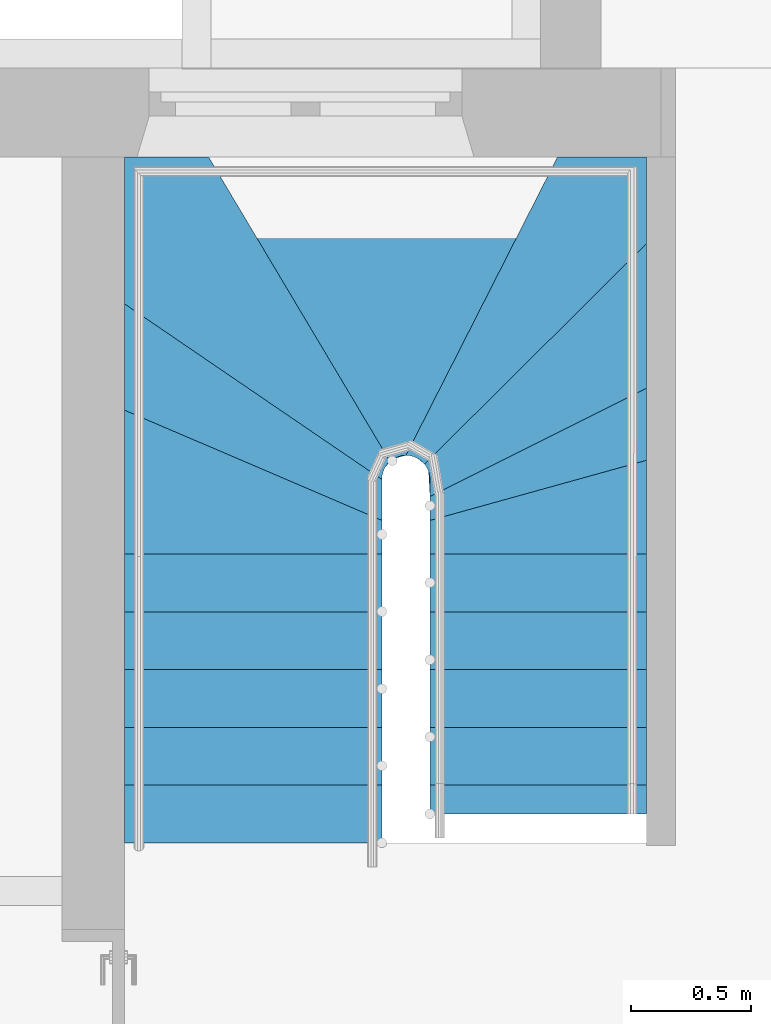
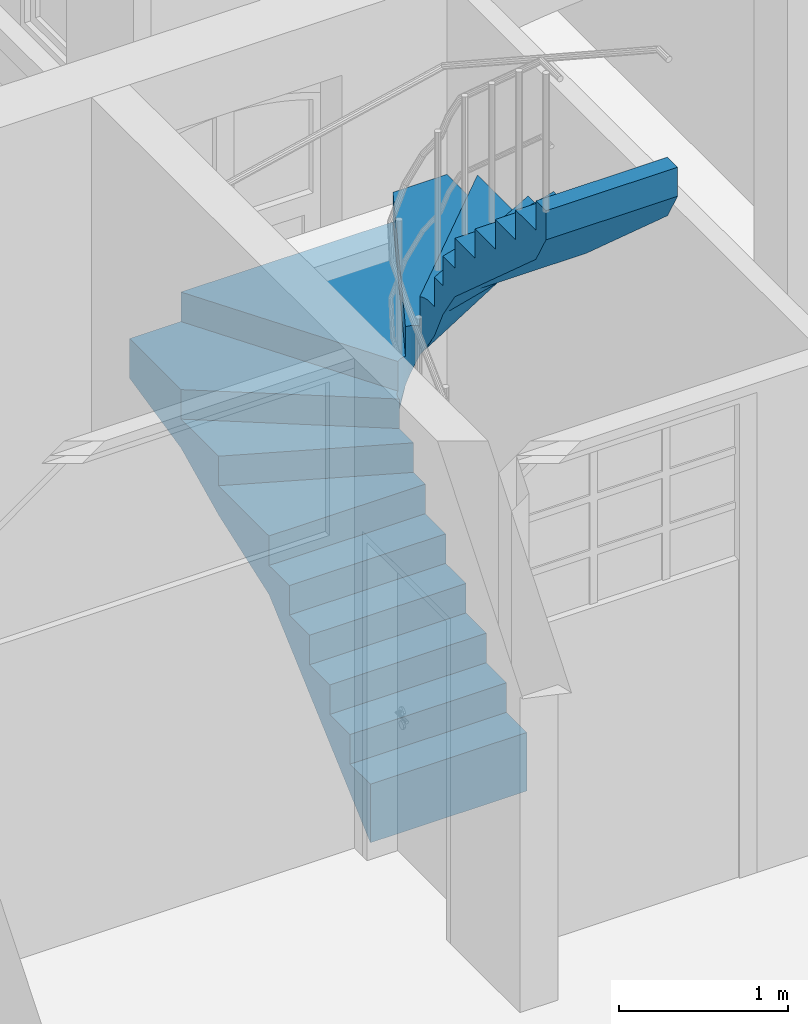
"""IFC4 building model written with IfcOpenShell, lengths in metres."""

from ifc_helpers import new_model, entity, si_unit, converted_unit, derived_unit, frame, origin, place, context, subcontext, project, spatial, faceted_brep, material, element, save


model = new_model("IFC4")

# Units and contexts
model_context = context("Model", 3, precision=1e-05, world=origin())
body_context = subcontext(model_context, "Body", "Model", "MODEL_VIEW")
ifc_project = project(units=[si_unit("LENGTHUNIT", "METRE"), si_unit("AREAUNIT", "SQUARE_METRE"), si_unit("VOLUMEUNIT", "CUBIC_METRE"), si_unit("MASSUNIT", "GRAM", prefix="KILO"), converted_unit("PLANEANGLEUNIT", "DEGREE", entity("IfcPlaneAngleMeasure", 0.0174532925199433), si_unit("PLANEANGLEUNIT", "RADIAN"), dimensions=[0, 0, 0, 0, 0, 0, 0]), derived_unit("THERMALTRANSMITTANCEUNIT", [(si_unit("POWERUNIT", "WATT"), 1), (si_unit("THERMODYNAMICTEMPERATUREUNIT", "KELVIN"), -1), (si_unit("LENGTHUNIT", "METRE"), -2)]), derived_unit("VOLUMETRICFLOWRATEUNIT", [(si_unit("LENGTHUNIT", "METRE"), 3), (converted_unit("TIMEUNIT", "hour", entity("IfcTimeMeasure", 3600.0), si_unit("TIMEUNIT", "SECOND"), dimensions=[0, 0, 1, 0, 0, 0, 0]), -1), (si_unit("LENGTHUNIT", "METRE"), -1)])], contexts=[model_context])

# Building, storeys
building_placement = place(None, origin())
building = spatial("IfcBuilding", under=ifc_project, at=building_placement, Name="Bestandsgebäude A - Sporthalle / Wohnhaus (TB 100-499)   ANPASSEN !!!", CompositionType="ELEMENT")
storey_1_placement = place(building_placement, frame((0.0, 0.0, 3.87)))
storey_1 = spatial("IfcBuildingStorey", under=building, at=storey_1_placement, Name="Geb. A 1. Obergeschoss (TB 250-299)", CompositionType="ELEMENT", Elevation=3.87)
storey_2_placement = place(storey_1_placement, frame((0.0, 0.0, 3.87)))
storey_2 = spatial("IfcBuildingStorey", under=storey_1, at=storey_2_placement, Name="Architektur (TB 250-259)", CompositionType="PARTIAL")

# Stair
ifc_material = material(Name="Free-Form Stair")
stair_placement = place(storey_2_placement, frame((-5.22, 6.03, -4.18)))
element("IfcStair", 1, at=stair_placement, inside=storey_2, material=ifc_material, PredefinedType="NOTDEFINED", context=body_context, shape_type="Brep", body=[
    faceted_brep([(2.17000000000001, 0.120000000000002, 4.0), (2.17000000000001, 0.240000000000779, 4.0), (1.27, 0.239999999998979, 4.0), (1.27, 0.120000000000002, 4.0), (2.17000000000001, 0.240000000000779, 4.05), (2.17000000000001, 0.120000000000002, 4.05), (1.27, 0.120000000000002, 4.05), (1.27, 0.239999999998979, 4.05)], [[[0, 1, 2, 3]], [[4, 5, 6, 7]], [[1, 0, 5, 4]], [[2, 1, 4, 7]], [[3, 2, 7, 6]], [[0, 3, 6, 5]]], orient=[[False], [False], [False], [False], [False], [False]]),
    faceted_brep([(2.17000000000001, 0.240000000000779, 3.78666666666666), (2.17000000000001, 0.480000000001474, 3.78666666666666), (1.27, 0.479999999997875, 3.78666666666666), (1.27, 0.239999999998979, 3.78666666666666), (2.17000000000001, 0.480000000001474, 3.83666666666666), (2.17000000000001, 0.240000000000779, 3.83666666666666), (1.27, 0.239999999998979, 3.83666666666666), (1.27, 0.479999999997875, 3.83666666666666)], [[[0, 1, 2, 3]], [[4, 5, 6, 7]], [[1, 0, 5, 4]], [[2, 1, 4, 7]], [[3, 2, 7, 6]], [[0, 3, 6, 5]]], orient=[[False], [False], [False], [False], [False], [False]]),
    faceted_brep([(2.17000000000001, 0.480000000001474, 3.57333333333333), (2.17000000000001, 0.720000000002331, 3.57333333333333), (1.27, 0.719999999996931, 3.57333333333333), (1.27, 0.479999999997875, 3.57333333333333), (2.17000000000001, 0.720000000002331, 3.62333333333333), (2.17000000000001, 0.480000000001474, 3.62333333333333), (1.27, 0.479999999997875, 3.62333333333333), (1.27, 0.719999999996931, 3.62333333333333)], [[[0, 1, 2, 3]], [[4, 5, 6, 7]], [[1, 0, 5, 4]], [[2, 1, 4, 7]], [[3, 2, 7, 6]], [[0, 3, 6, 5]]], orient=[[False], [False], [False], [False], [False], [False]]),
    faceted_brep([(2.17000000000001, 0.720000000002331, 3.36), (2.17000000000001, 0.960000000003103, 3.36), (1.27, 0.959999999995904, 3.36), (1.27, 0.719999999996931, 3.36), (2.17000000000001, 0.960000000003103, 3.41), (2.17000000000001, 0.720000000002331, 3.41), (1.27, 0.719999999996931, 3.41), (1.27, 0.959999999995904, 3.41)], [[[0, 1, 2, 3]], [[4, 5, 6, 7]], [[1, 0, 5, 4]], [[2, 1, 4, 7]], [[3, 2, 7, 6]], [[0, 3, 6, 5]]], orient=[[False], [False], [False], [False], [False], [False]]),
    faceted_brep([(2.17000000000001, 0.960000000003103, 3.14666666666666), (2.17, 1.20000000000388, 3.14666666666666), (1.27, 1.19999999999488, 3.14666666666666), (1.27, 0.959999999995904, 3.14666666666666), (2.17, 1.20000000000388, 3.19666666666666), (2.17000000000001, 0.960000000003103, 3.19666666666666), (1.27, 0.959999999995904, 3.19666666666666), (1.27, 1.19999999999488, 3.19666666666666)], [[[0, 1, 2, 3]], [[4, 5, 6, 7]], [[1, 0, 5, 4]], [[2, 1, 4, 7]], [[3, 2, 7, 6]], [[0, 3, 6, 5]]], orient=[[False], [False], [False], [False], [False], [False]]),
    faceted_brep([(2.17, 1.20000000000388, 2.93333333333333), (2.17, 1.59000000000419, 2.93333333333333), (1.27, 1.3399999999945, 2.93333333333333), (1.27, 1.19999999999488, 2.93333333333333), (2.17, 1.59000000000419, 2.98333333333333), (2.17, 1.20000000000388, 2.98333333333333), (1.27, 1.19999999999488, 2.98333333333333), (1.27, 1.3399999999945, 2.98333333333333)], [[[0, 1, 2, 3]], [[4, 5, 6, 7]], [[1, 0, 5, 4]], [[2, 1, 4, 7]], [[3, 2, 7, 6]], [[0, 3, 6, 5]]], orient=[[False], [False], [False], [False], [False], [False]]),
    faceted_brep([(2.17, 1.59000000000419, 2.72), (2.17, 1.89000000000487, 2.72), (1.27, 1.43999999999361, 2.72), (1.27, 1.3399999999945, 2.72), (2.17, 1.89000000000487, 2.77), (2.17, 1.59000000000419, 2.77), (1.27, 1.3399999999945, 2.77), (1.27, 1.43999999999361, 2.77)], [[[0, 1, 2, 3]], [[4, 5, 6, 7]], [[1, 0, 5, 4]], [[2, 1, 4, 7]], [[3, 2, 7, 6]], [[0, 3, 6, 5]]], orient=[[False], [False], [False], [False], [False], [False]]),
    faceted_brep([(2.17, 1.89000000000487, 2.50666666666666), (2.17, 2.49063680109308, 2.50666666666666), (1.24721915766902, 1.57392885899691, 2.50666666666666), (1.25660254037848, 1.56052799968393, 2.50666666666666), (1.26396926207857, 1.54473001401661, 2.50666666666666), (1.26848077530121, 1.52789281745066, 2.50666666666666), (1.27, 1.51052799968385, 2.50666666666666), (1.27, 1.43999999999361, 2.50666666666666), (2.17, 2.49063680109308, 2.55666666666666), (2.17, 1.89000000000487, 2.55666666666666), (1.27, 1.43999999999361, 2.55666666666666), (1.27, 1.51052799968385, 2.55666666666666), (1.26848077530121, 1.52789281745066, 2.55666666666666), (1.26396926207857, 1.54473001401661, 2.55666666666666), (1.25660254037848, 1.56052799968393, 2.55666666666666), (1.24721915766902, 1.57392885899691, 2.55666666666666)], [[[0, 1, 2, 3, 4, 5, 6, 7]], [[8, 9, 10, 11, 12, 13, 14, 15]], [[1, 0, 9, 8]], [[2, 1, 8, 15]], [[3, 2, 15, 14]], [[4, 3, 14, 13]], [[5, 4, 13, 12]], [[6, 5, 12, 11]], [[7, 6, 11, 10]], [[0, 7, 10, 9]]], orient=[[False], [False], [False], [False], [False], [False], [False], [False], [False], [False]]),
    faceted_brep([(2.17, 2.85, 2.29333333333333), (1.79999999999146, 2.85, 2.29333333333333), (1.17, 1.61052799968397, 2.29333333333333), (1.18736481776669, 1.60900877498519, 2.29333333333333), (1.2042020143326, 1.60449726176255, 2.29333333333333), (1.21999999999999, 1.59713054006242, 2.29333333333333), (1.23427876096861, 1.58713244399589, 2.29333333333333), (1.24660444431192, 1.57480676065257, 2.29333333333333), (1.24721915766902, 1.57392885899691, 2.29333333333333), (2.17, 2.49063680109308, 2.29333333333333), (1.79999999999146, 2.85, 2.34333333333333), (2.17, 2.85, 2.34333333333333), (2.17, 2.49063680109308, 2.34333333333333), (1.24721915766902, 1.57392885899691, 2.34333333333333), (1.24660444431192, 1.57480676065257, 2.34333333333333), (1.23427876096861, 1.58713244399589, 2.34333333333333), (1.21999999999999, 1.59713054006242, 2.34333333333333), (1.2042020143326, 1.60449726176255, 2.34333333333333), (1.18736481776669, 1.60900877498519, 2.34333333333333), (1.17, 1.61052799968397, 2.34333333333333)], [[[0, 1, 2, 3, 4, 5, 6, 7, 8, 9]], [[10, 11, 12, 13, 14, 15, 16, 17, 18, 19]], [[1, 0, 11, 10]], [[2, 1, 10, 19]], [[3, 2, 19, 18]], [[4, 3, 18, 17]], [[5, 4, 17, 16]], [[6, 5, 16, 15]], [[7, 6, 15, 14]], [[8, 7, 14, 13]], [[9, 8, 13, 12]], [[0, 9, 12, 11]]], orient=[[False], [False], [False], [False], [False], [False], [False], [False], [False], [False], [False], [False]]),
    faceted_brep([(1.79999999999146, 2.85, 2.08), (0.349999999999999, 2.85, 2.08), (1.10399808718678, 1.5854092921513, 2.08), (1.10572123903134, 1.58713244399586, 2.08), (1.11999999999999, 1.5971305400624, 2.08), (1.13579798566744, 1.60449726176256, 2.08), (1.15263518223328, 1.60900877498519, 2.08), (1.17, 1.61052799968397, 2.08), (0.349999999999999, 2.85, 2.13), (1.79999999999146, 2.85, 2.13), (1.17, 1.61052799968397, 2.13), (1.15263518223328, 1.60900877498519, 2.13), (1.13579798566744, 1.60449726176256, 2.13), (1.11999999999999, 1.5971305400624, 2.13), (1.10572123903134, 1.58713244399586, 2.13), (1.10399808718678, 1.5854092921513, 2.13)], [[[0, 1, 2, 3, 4, 5, 6, 7]], [[8, 9, 10, 11, 12, 13, 14, 15]], [[1, 0, 9, 8]], [[2, 1, 8, 15]], [[3, 2, 15, 14]], [[4, 3, 14, 13]], [[5, 4, 13, 12]], [[6, 5, 12, 11]], [[7, 6, 11, 10]], [[0, 7, 10, 9]]], orient=[[False], [False], [False], [False], [False], [False], [False], [False], [False], [False]]),
    faceted_brep([(0.0, 2.85, 1.86666666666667), (0.0, 2.24052799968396, 1.86666666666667), (1.07, 1.51052799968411, 1.86666666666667), (1.07151922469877, 1.52789281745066, 1.86666666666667), (1.07603073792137, 1.54473001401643, 1.86666666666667), (1.08339745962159, 1.56052799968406, 1.86666666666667), (1.09339555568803, 1.57480676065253, 1.86666666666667), (1.10399808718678, 1.5854092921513, 1.86666666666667), (0.349999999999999, 2.85, 1.86666666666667), (0.0, 2.24052799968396, 1.91666666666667), (0.0, 2.85, 1.91666666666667), (0.349999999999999, 2.85, 1.91666666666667), (1.10399808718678, 1.5854092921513, 1.91666666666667), (1.09339555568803, 1.57480676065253, 1.91666666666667), (1.08339745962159, 1.56052799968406, 1.91666666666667), (1.07603073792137, 1.54473001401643, 1.91666666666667), (1.07151922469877, 1.52789281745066, 1.91666666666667), (1.07, 1.51052799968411, 1.91666666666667)], [[[0, 1, 2, 3, 4, 5, 6, 7, 8]], [[9, 10, 11, 12, 13, 14, 15, 16, 17]], [[1, 0, 10, 9]], [[2, 1, 9, 17]], [[3, 2, 17, 16]], [[4, 3, 16, 15]], [[5, 4, 15, 14]], [[6, 5, 14, 13]], [[7, 6, 13, 12]], [[8, 7, 12, 11]], [[0, 8, 11, 10]]], orient=[[False], [False], [False], [False], [False], [False], [False], [False], [False], [False], [False]]),
    faceted_brep([(0.0, 2.24052799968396, 1.65333333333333), (0.0, 1.7985374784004, 1.65333333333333), (1.07, 1.34020633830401, 1.65333333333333), (1.07, 1.51052799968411, 1.65333333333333), (0.0, 1.7985374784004, 1.70333333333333), (0.0, 2.24052799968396, 1.70333333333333), (1.07, 1.51052799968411, 1.70333333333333), (1.07, 1.34020633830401, 1.70333333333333)], [[[0, 1, 2, 3]], [[4, 5, 6, 7]], [[1, 0, 5, 4]], [[2, 1, 4, 7]], [[3, 2, 7, 6]], [[0, 3, 6, 5]]], orient=[[False], [False], [False], [False], [False], [False]]),
    faceted_brep([(0.0, 1.7985374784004, 1.44), (0.0, 1.19999999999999, 1.44), (1.07, 1.19999999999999, 1.44), (1.07, 1.34020633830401, 1.44), (0.0, 1.19999999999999, 1.49), (0.0, 1.7985374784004, 1.49), (1.07, 1.34020633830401, 1.49), (1.07, 1.19999999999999, 1.49)], [[[0, 1, 2, 3]], [[4, 5, 6, 7]], [[1, 0, 5, 4]], [[2, 1, 4, 7]], [[3, 2, 7, 6]], [[0, 3, 6, 5]]], orient=[[False], [False], [False], [False], [False], [False]]),
    faceted_brep([(0.0, 1.19999999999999, 1.22666666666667), (0.0, 0.959999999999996, 1.22666666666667), (1.07, 0.959999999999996, 1.22666666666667), (1.07, 1.19999999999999, 1.22666666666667), (0.0, 0.959999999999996, 1.27666666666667), (0.0, 1.19999999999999, 1.27666666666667), (1.07, 1.19999999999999, 1.27666666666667), (1.07, 0.959999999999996, 1.27666666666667)], [[[0, 1, 2, 3]], [[4, 5, 6, 7]], [[1, 0, 5, 4]], [[2, 1, 4, 7]], [[3, 2, 7, 6]], [[0, 3, 6, 5]]], orient=[[False], [False], [False], [False], [False], [False]]),
    faceted_brep([(0.0, 0.959999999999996, 1.01333333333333), (0.0, 0.719999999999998, 1.01333333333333), (1.07, 0.719999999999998, 1.01333333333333), (1.07, 0.959999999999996, 1.01333333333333), (0.0, 0.719999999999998, 1.06333333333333), (0.0, 0.959999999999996, 1.06333333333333), (1.07, 0.959999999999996, 1.06333333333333), (1.07, 0.719999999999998, 1.06333333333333)], [[[0, 1, 2, 3]], [[4, 5, 6, 7]], [[1, 0, 5, 4]], [[2, 1, 4, 7]], [[3, 2, 7, 6]], [[0, 3, 6, 5]]], orient=[[False], [False], [False], [False], [False], [False]]),
    faceted_brep([(0.0, 0.719999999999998, 0.8), (0.0, 0.479999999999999, 0.8), (1.07, 0.479999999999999, 0.8), (1.07, 0.719999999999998, 0.8), (0.0, 0.479999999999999, 0.85), (0.0, 0.719999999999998, 0.85), (1.07, 0.719999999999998, 0.85), (1.07, 0.479999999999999, 0.85)], [[[0, 1, 2, 3]], [[4, 5, 6, 7]], [[1, 0, 5, 4]], [[2, 1, 4, 7]], [[3, 2, 7, 6]], [[0, 3, 6, 5]]], orient=[[False], [False], [False], [False], [False], [False]]),
    faceted_brep([(0.0, 0.479999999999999, 0.586666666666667), (0.0, 0.240000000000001, 0.586666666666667), (1.07, 0.240000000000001, 0.586666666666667), (1.07, 0.479999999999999, 0.586666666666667), (0.0, 0.240000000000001, 0.636666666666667), (0.0, 0.479999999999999, 0.636666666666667), (1.07, 0.479999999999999, 0.636666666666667), (1.07, 0.240000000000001, 0.636666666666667)], [[[0, 1, 2, 3]], [[4, 5, 6, 7]], [[1, 0, 5, 4]], [[2, 1, 4, 7]], [[3, 2, 7, 6]], [[0, 3, 6, 5]]], orient=[[False], [False], [False], [False], [False], [False]]),
    faceted_brep([(0.0, 0.240000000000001, 0.373333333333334), (0.0, 0.0, 0.373333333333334), (1.07, 0.0, 0.373333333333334), (1.07, 0.240000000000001, 0.373333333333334), (0.0, 0.0, 0.423333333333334), (0.0, 0.240000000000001, 0.423333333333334), (1.07, 0.240000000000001, 0.423333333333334), (1.07, 0.0, 0.423333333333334)], [[[0, 1, 2, 3]], [[4, 5, 6, 7]], [[1, 0, 5, 4]], [[2, 1, 4, 7]], [[3, 2, 7, 6]], [[0, 3, 6, 5]]], orient=[[False], [False], [False], [False], [False], [False]]),
    faceted_brep([(1.27, 0.239999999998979, 3.62666666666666), (1.27, 0.120000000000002, 3.84), (2.17000000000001, 0.120000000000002, 3.84), (2.17000000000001, 0.240000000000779, 3.62666666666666), (2.17000000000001, 0.240000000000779, 4.0), (2.17000000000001, 0.120000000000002, 4.0), (1.27, 0.120000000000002, 4.0), (1.27, 0.239999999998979, 4.0)], [[[0, 1, 2, 3]], [[4, 5, 6, 7]], [[3, 4, 7, 0]], [[0, 7, 6, 1]], [[1, 6, 5, 2]], [[2, 5, 4, 3]]], orient=[[False], [False], [False], [False], [False], [False]]),
    faceted_brep([(1.27, 0.479999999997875, 3.41333333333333), (1.27, 0.239999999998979, 3.62666666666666), (2.17000000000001, 0.240000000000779, 3.62666666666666), (2.17000000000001, 0.480000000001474, 3.41333333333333), (2.17000000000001, 0.480000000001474, 3.78666666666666), (2.17000000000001, 0.240000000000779, 3.78666666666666), (1.27, 0.239999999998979, 3.78666666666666), (1.27, 0.479999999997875, 3.78666666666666)], [[[0, 1, 2, 3]], [[4, 5, 6, 7]], [[3, 4, 7, 0]], [[0, 7, 6, 1]], [[1, 6, 5, 2]], [[2, 5, 4, 3]]], orient=[[False], [False], [False], [False], [False], [False]]),
    faceted_brep([(1.27, 0.719999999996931, 3.2), (1.27, 0.479999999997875, 3.41333333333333), (2.17000000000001, 0.480000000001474, 3.41333333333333), (2.17000000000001, 0.720000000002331, 3.2), (2.17000000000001, 0.720000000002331, 3.57333333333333), (2.17000000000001, 0.480000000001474, 3.57333333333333), (1.27, 0.479999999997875, 3.57333333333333), (1.27, 0.719999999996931, 3.57333333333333)], [[[0, 1, 2, 3]], [[4, 5, 6, 7]], [[3, 4, 7, 0]], [[0, 7, 6, 1]], [[1, 6, 5, 2]], [[2, 5, 4, 3]]], orient=[[False], [False], [False], [False], [False], [False]]),
    faceted_brep([(1.27, 0.959999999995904, 2.98666666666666), (1.27, 0.719999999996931, 3.2), (2.17000000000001, 0.720000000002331, 3.2), (2.17000000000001, 0.960000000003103, 2.98666666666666), (2.17000000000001, 0.960000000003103, 3.36), (2.17000000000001, 0.720000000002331, 3.36), (1.27, 0.719999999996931, 3.36), (1.27, 0.959999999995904, 3.36)], [[[0, 1, 2, 3]], [[4, 5, 6, 7]], [[3, 4, 7, 0]], [[0, 7, 6, 1]], [[1, 6, 5, 2]], [[2, 5, 4, 3]]], orient=[[False], [False], [False], [False], [False], [False]]),
    faceted_brep([(1.27, 1.19999999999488, 2.77333333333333), (1.27, 0.959999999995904, 2.98666666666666), (2.17000000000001, 0.960000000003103, 2.98666666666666), (2.17, 1.20000000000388, 2.77333333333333), (2.17, 1.20000000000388, 3.14666666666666), (2.17000000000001, 0.960000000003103, 3.14666666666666), (1.27, 0.959999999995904, 3.14666666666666), (1.27, 1.19999999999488, 3.14666666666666)], [[[0, 1, 2, 3]], [[4, 5, 6, 7]], [[3, 4, 7, 0]], [[0, 7, 6, 1]], [[1, 6, 5, 2]], [[2, 5, 4, 3]]], orient=[[False], [False], [False], [False], [False], [False]]),
    faceted_brep([(1.27, 1.3399999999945, 2.56), (1.27, 1.19999999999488, 2.77333333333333), (2.17, 1.59000000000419, 2.56), (2.17, 1.20000000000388, 2.77333333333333), (2.17, 1.59000000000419, 2.93333333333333), (2.17, 1.20000000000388, 2.93333333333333), (1.27, 1.19999999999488, 2.93333333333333), (1.27, 1.3399999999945, 2.93333333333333)], [[[0, 1, 2]], [[1, 3, 2]], [[4, 5, 6, 7]], [[2, 4, 7, 0]], [[0, 7, 6, 1]], [[1, 6, 5, 3]], [[3, 5, 4, 2]]], orient=[[False], [False], [False], [False], [False], [False], [False]]),
    faceted_brep([(1.27, 1.43999999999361, 2.34666666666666), (1.27, 1.3399999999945, 2.56), (2.17, 1.89000000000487, 2.34666666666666), (2.17, 1.59000000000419, 2.56), (2.17, 1.89000000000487, 2.72), (2.17, 1.59000000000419, 2.72), (1.27, 1.3399999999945, 2.72), (1.27, 1.43999999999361, 2.72)], [[[0, 1, 2]], [[1, 3, 2]], [[4, 5, 6, 7]], [[2, 4, 7, 0]], [[0, 7, 6, 1]], [[1, 6, 5, 3]], [[3, 5, 4, 2]]], orient=[[False], [False], [False], [False], [False], [False], [False]]),
    faceted_brep([(1.24721915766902, 1.57392885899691, 2.13333333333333), (1.25660254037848, 1.56052799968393, 2.15869130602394), (2.17, 2.49063680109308, 2.13333333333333), (2.17, 1.89000000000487, 2.34666666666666), (1.26396926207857, 1.54473001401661, 2.18515897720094), (1.27, 1.43999999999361, 2.34666666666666), (1.26848077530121, 1.52789281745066, 2.21137600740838), (1.27, 1.51052799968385, 2.2375567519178), (2.17, 2.49063680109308, 2.50666666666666), (2.17, 1.89000000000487, 2.50666666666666), (1.27, 1.43999999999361, 2.50666666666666), (1.27, 1.51052799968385, 2.50666666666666), (1.26848077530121, 1.52789281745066, 2.50666666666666), (1.26396926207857, 1.54473001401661, 2.50666666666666), (1.25660254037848, 1.56052799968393, 2.50666666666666), (1.24721915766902, 1.57392885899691, 2.50666666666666)], [[[0, 1, 2]], [[1, 3, 2]], [[1, 4, 3]], [[4, 5, 3]], [[4, 6, 5]], [[6, 7, 5]], [[8, 9, 10, 11, 12, 13, 14, 15]], [[2, 8, 15, 0]], [[0, 15, 14, 1]], [[1, 14, 13, 4]], [[4, 13, 12, 6]], [[6, 12, 11, 7]], [[7, 11, 10, 5]], [[5, 10, 9, 3]], [[3, 9, 8, 2]]], orient=[[False], [False], [False], [False], [False], [False], [False], [False], [False], [False], [False], [False], [False], [False], [False]]),
    faceted_brep([(1.17, 1.61052799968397, 1.92), (1.18736481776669, 1.60900877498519, 1.96283760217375), (1.79999999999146, 2.85, 1.92), (2.17, 2.85, 2.0282222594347), (1.2042020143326, 1.60449726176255, 2.00467241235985), (2.17, 2.49063680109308, 2.13333333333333), (1.21999999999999, 1.59713054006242, 2.04616224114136), (1.24721915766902, 1.57392885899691, 2.13333333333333), (1.23427876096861, 1.58713244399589, 2.08794336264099), (1.24660444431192, 1.57480676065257, 2.13066223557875), (1.79999999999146, 2.85, 2.29333333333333), (2.17, 2.85, 2.29333333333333), (2.17, 2.49063680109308, 2.29333333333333), (1.24721915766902, 1.57392885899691, 2.29333333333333), (1.24660444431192, 1.57480676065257, 2.29333333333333), (1.23427876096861, 1.58713244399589, 2.29333333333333), (1.21999999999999, 1.59713054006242, 2.29333333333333), (1.2042020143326, 1.60449726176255, 2.29333333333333), (1.18736481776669, 1.60900877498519, 2.29333333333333), (1.17, 1.61052799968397, 2.29333333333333)], [[[0, 1, 2]], [[1, 3, 2]], [[1, 4, 3]], [[4, 5, 3]], [[4, 6, 5]], [[6, 7, 5]], [[6, 8, 7]], [[8, 9, 7]], [[10, 11, 12, 13, 14, 15, 16, 17, 18, 19]], [[2, 10, 19, 0]], [[0, 19, 18, 1]], [[1, 18, 17, 4]], [[4, 17, 16, 6]], [[6, 16, 15, 8]], [[8, 15, 14, 9]], [[9, 14, 13, 7]], [[7, 13, 12, 5]], [[5, 12, 11, 3]], [[3, 11, 10, 2]]], orient=[[False], [False], [False], [False], [False], [False], [False], [False], [False], [False], [False], [False], [False], [False], [False], [False], [False], [False], [False]]),
    faceted_brep([(1.10399808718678, 1.5854092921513, 1.70666666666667), (1.10572123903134, 1.58713244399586, 1.71400526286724), (0.349999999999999, 2.85, 1.70666666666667), (1.79999999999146, 2.85, 1.92), (1.11999999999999, 1.5971305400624, 1.76576752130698), (1.17, 1.61052799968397, 1.92), (1.13579798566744, 1.60449726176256, 1.81683732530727), (1.15263518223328, 1.60900877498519, 1.86798466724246), (0.349999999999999, 2.85, 2.08), (1.79999999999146, 2.85, 2.08), (1.17, 1.61052799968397, 2.08), (1.15263518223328, 1.60900877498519, 2.08), (1.13579798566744, 1.60449726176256, 2.08), (1.11999999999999, 1.5971305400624, 2.08), (1.10572123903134, 1.58713244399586, 2.08), (1.10399808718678, 1.5854092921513, 2.08)], [[[0, 1, 2]], [[1, 3, 2]], [[1, 4, 3]], [[4, 5, 3]], [[4, 6, 5]], [[6, 7, 5]], [[8, 9, 10, 11, 12, 13, 14, 15]], [[2, 8, 15, 0]], [[0, 15, 14, 1]], [[1, 14, 13, 4]], [[4, 13, 12, 6]], [[6, 12, 11, 7]], [[7, 11, 10, 5]], [[5, 10, 9, 3]], [[3, 9, 8, 2]]], orient=[[False], [False], [False], [False], [False], [False], [False], [False], [False], [False], [False], [False], [False], [False], [False]]),
    faceted_brep([(1.07, 1.51052799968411, 1.49333333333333), (1.07151922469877, 1.52789281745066, 1.53787636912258), (0.0, 2.24052799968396, 1.49333333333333), (0.0, 2.85, 1.62884608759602), (1.07603073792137, 1.54473001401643, 1.58143554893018), (0.349999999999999, 2.85, 1.70666666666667), (1.08339745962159, 1.56052799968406, 1.62469296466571), (1.10399808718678, 1.5854092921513, 1.70666666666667), (1.09339555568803, 1.57480676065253, 1.66831129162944), (0.0, 2.24052799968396, 1.86666666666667), (0.0, 2.85, 1.86666666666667), (0.349999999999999, 2.85, 1.86666666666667), (1.10399808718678, 1.5854092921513, 1.86666666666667), (1.09339555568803, 1.57480676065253, 1.86666666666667), (1.08339745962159, 1.56052799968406, 1.86666666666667), (1.07603073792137, 1.54473001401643, 1.86666666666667), (1.07151922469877, 1.52789281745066, 1.86666666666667), (1.07, 1.51052799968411, 1.86666666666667)], [[[0, 1, 2]], [[1, 3, 2]], [[1, 4, 3]], [[4, 5, 3]], [[4, 6, 5]], [[6, 7, 5]], [[6, 8, 7]], [[9, 10, 11, 12, 13, 14, 15, 16, 17]], [[2, 9, 17, 0]], [[0, 17, 16, 1]], [[1, 16, 15, 4]], [[4, 15, 14, 6]], [[6, 14, 13, 8]], [[8, 13, 12, 7]], [[7, 12, 11, 5]], [[5, 11, 10, 3]], [[3, 10, 9, 2]]], orient=[[False], [False], [False], [False], [False], [False], [False], [False], [False], [False], [False], [False], [False], [False], [False], [False], [False]]),
    faceted_brep([(1.07, 1.34020633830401, 1.28), (1.07, 1.51052799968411, 1.49333333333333), (0.0, 1.7985374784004, 1.28), (0.0, 2.24052799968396, 1.49333333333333), (0.0, 1.7985374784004, 1.65333333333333), (0.0, 2.24052799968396, 1.65333333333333), (1.07, 1.51052799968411, 1.65333333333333), (1.07, 1.34020633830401, 1.65333333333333)], [[[0, 1, 2]], [[1, 3, 2]], [[4, 5, 6, 7]], [[2, 4, 7, 0]], [[0, 7, 6, 1]], [[1, 6, 5, 3]], [[3, 5, 4, 2]]], orient=[[False], [False], [False], [False], [False], [False], [False]]),
    faceted_brep([(1.07, 1.19999999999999, 1.06666666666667), (1.07, 1.34020633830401, 1.28), (0.0, 1.19999999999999, 1.06666666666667), (0.0, 1.7985374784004, 1.28), (0.0, 1.19999999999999, 1.44), (0.0, 1.7985374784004, 1.44), (1.07, 1.34020633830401, 1.44), (1.07, 1.19999999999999, 1.44)], [[[0, 1, 2]], [[1, 3, 2]], [[4, 5, 6, 7]], [[2, 4, 7, 0]], [[0, 7, 6, 1]], [[1, 6, 5, 3]], [[3, 5, 4, 2]]], orient=[[False], [False], [False], [False], [False], [False], [False]]),
    faceted_brep([(1.07, 0.959999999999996, 0.853333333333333), (1.07, 1.19999999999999, 1.06666666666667), (0.0, 1.19999999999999, 1.06666666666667), (0.0, 0.959999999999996, 0.853333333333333), (0.0, 0.959999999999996, 1.22666666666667), (0.0, 1.19999999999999, 1.22666666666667), (1.07, 1.19999999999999, 1.22666666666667), (1.07, 0.959999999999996, 1.22666666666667)], [[[0, 1, 2, 3]], [[4, 5, 6, 7]], [[3, 4, 7, 0]], [[0, 7, 6, 1]], [[1, 6, 5, 2]], [[2, 5, 4, 3]]], orient=[[False], [False], [False], [False], [False], [False]]),
    faceted_brep([(1.07, 0.719999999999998, 0.64), (1.07, 0.959999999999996, 0.853333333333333), (0.0, 0.959999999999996, 0.853333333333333), (0.0, 0.719999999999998, 0.64), (0.0, 0.719999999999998, 1.01333333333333), (0.0, 0.959999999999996, 1.01333333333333), (1.07, 0.959999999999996, 1.01333333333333), (1.07, 0.719999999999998, 1.01333333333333)], [[[0, 1, 2, 3]], [[4, 5, 6, 7]], [[3, 4, 7, 0]], [[0, 7, 6, 1]], [[1, 6, 5, 2]], [[2, 5, 4, 3]]], orient=[[False], [False], [False], [False], [False], [False]]),
    faceted_brep([(1.07, 0.479999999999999, 0.426666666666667), (1.07, 0.719999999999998, 0.64), (0.0, 0.719999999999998, 0.64), (0.0, 0.479999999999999, 0.426666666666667), (0.0, 0.479999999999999, 0.8), (0.0, 0.719999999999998, 0.8), (1.07, 0.719999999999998, 0.8), (1.07, 0.479999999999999, 0.8)], [[[0, 1, 2, 3]], [[4, 5, 6, 7]], [[3, 4, 7, 0]], [[0, 7, 6, 1]], [[1, 6, 5, 2]], [[2, 5, 4, 3]]], orient=[[False], [False], [False], [False], [False], [False]]),
    faceted_brep([(1.07, 0.240000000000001, 0.213333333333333), (1.07, 0.479999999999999, 0.426666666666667), (0.0, 0.479999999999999, 0.426666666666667), (0.0, 0.240000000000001, 0.213333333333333), (0.0, 0.240000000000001, 0.586666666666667), (0.0, 0.479999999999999, 0.586666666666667), (1.07, 0.479999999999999, 0.586666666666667), (1.07, 0.240000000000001, 0.586666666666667)], [[[0, 1, 2, 3]], [[4, 5, 6, 7]], [[3, 4, 7, 0]], [[0, 7, 6, 1]], [[1, 6, 5, 2]], [[2, 5, 4, 3]]], orient=[[False], [False], [False], [False], [False], [False]]),
    faceted_brep([(1.07, 0.0, 0.0), (1.07, 0.240000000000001, 0.213333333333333), (0.0, 0.240000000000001, 0.213333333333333), (0.0, 0.0, 0.0), (0.0, 0.0, 0.373333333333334), (0.0, 0.240000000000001, 0.373333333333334), (1.07, 0.240000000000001, 0.373333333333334), (1.07, 0.0, 0.373333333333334)], [[[0, 1, 2, 3]], [[4, 5, 6, 7]], [[3, 4, 7, 0]], [[0, 7, 6, 1]], [[1, 6, 5, 2]], [[2, 5, 4, 3]]], orient=[[False], [False], [False], [False], [False], [False]]),
])

save(model, "model.ifc")
